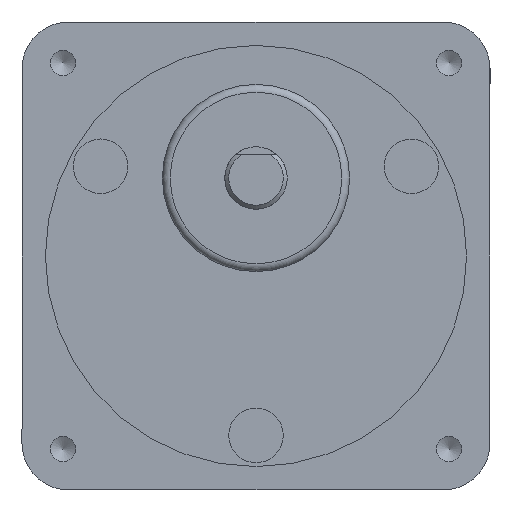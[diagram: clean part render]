
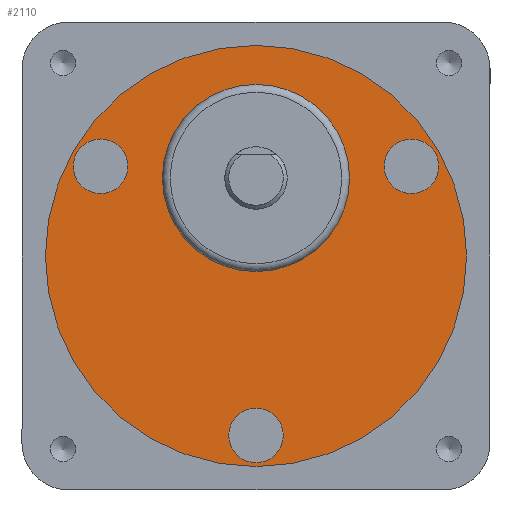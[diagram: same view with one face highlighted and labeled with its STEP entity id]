
A CAD part, front view. The second image highlights one B-rep face of the part: STEP entity #2110.
In plain terms, the highlighted planar face has unit normal (0, -1, 0).
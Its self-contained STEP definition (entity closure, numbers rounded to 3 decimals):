
#55=FACE_BOUND('',#344,.T.);
#56=FACE_BOUND('',#345,.T.);
#57=FACE_BOUND('',#346,.T.);
#58=FACE_BOUND('',#347,.T.);
#110=PLANE('',#2354);
#196=FACE_OUTER_BOUND('',#343,.T.);
#343=EDGE_LOOP('',(#1594));
#344=EDGE_LOOP('',(#1595));
#345=EDGE_LOOP('',(#1596));
#346=EDGE_LOOP('',(#1597));
#347=EDGE_LOOP('',(#1598));
#762=CIRCLE('',#2258,3.5);
#764=CIRCLE('',#2262,3.5);
#766=CIRCLE('',#2266,3.5);
#815=CIRCLE('',#2353,27.);
#816=CIRCLE('',#2355,12.);
#909=VERTEX_POINT('',#3263);
#911=VERTEX_POINT('',#3270);
#913=VERTEX_POINT('',#3277);
#974=VERTEX_POINT('',#3575);
#975=VERTEX_POINT('',#3579);
#1110=EDGE_CURVE('',#909,#909,#762,.T.);
#1113=EDGE_CURVE('',#911,#911,#764,.T.);
#1116=EDGE_CURVE('',#913,#913,#766,.T.);
#1208=EDGE_CURVE('',#974,#974,#815,.T.);
#1209=EDGE_CURVE('',#975,#975,#816,.T.);
#1594=ORIENTED_EDGE('',*,*,#1208,.T.);
#1595=ORIENTED_EDGE('',*,*,#1110,.T.);
#1596=ORIENTED_EDGE('',*,*,#1113,.T.);
#1597=ORIENTED_EDGE('',*,*,#1116,.T.);
#1598=ORIENTED_EDGE('',*,*,#1209,.F.);
#2110=ADVANCED_FACE('',(#196,#55,#56,#57,#58),#110,.F.);
#2258=AXIS2_PLACEMENT_3D('',#3264,#2546,#2547);
#2262=AXIS2_PLACEMENT_3D('',#3271,#2555,#2556);
#2266=AXIS2_PLACEMENT_3D('',#3278,#2564,#2565);
#2353=AXIS2_PLACEMENT_3D('',#3577,#2781,#2782);
#2354=AXIS2_PLACEMENT_3D('',#3578,#2783,#2784);
#2355=AXIS2_PLACEMENT_3D('',#3580,#2785,#2786);
#2546=DIRECTION('center_axis',(0.,1.,0.));
#2547=DIRECTION('ref_axis',(0.5,0.,-0.866));
#2555=DIRECTION('center_axis',(0.,1.,0.));
#2556=DIRECTION('ref_axis',(0.5,0.,0.866));
#2564=DIRECTION('center_axis',(0.,1.,0.));
#2565=DIRECTION('ref_axis',(-1.,0.,0.));
#2781=DIRECTION('center_axis',(0.,-1.,0.));
#2782=DIRECTION('ref_axis',(-1.,0.,0.));
#2783=DIRECTION('center_axis',(0.,1.,0.));
#2784=DIRECTION('ref_axis',(0.,0.,1.));
#2785=DIRECTION('center_axis',(0.,-1.,0.));
#2786=DIRECTION('ref_axis',(-1.,0.,0.));
#3263=CARTESIAN_POINT('',(18.169,0.5,14.531));
#3264=CARTESIAN_POINT('Origin',(19.919,0.5,11.5));
#3270=CARTESIAN_POINT('',(-21.669,0.5,8.469));
#3271=CARTESIAN_POINT('Origin',(-19.919,0.5,11.5));
#3277=CARTESIAN_POINT('',(3.5,0.5,-23.));
#3278=CARTESIAN_POINT('Origin',(0.,0.5,-23.));
#3575=CARTESIAN_POINT('',(27.,0.5,0.));
#3577=CARTESIAN_POINT('Origin',(0.,0.5,0.));
#3578=CARTESIAN_POINT('Origin',(0.,0.5,0.));
#3579=CARTESIAN_POINT('',(12.,0.5,10.));
#3580=CARTESIAN_POINT('Origin',(0.,0.5,10.));
